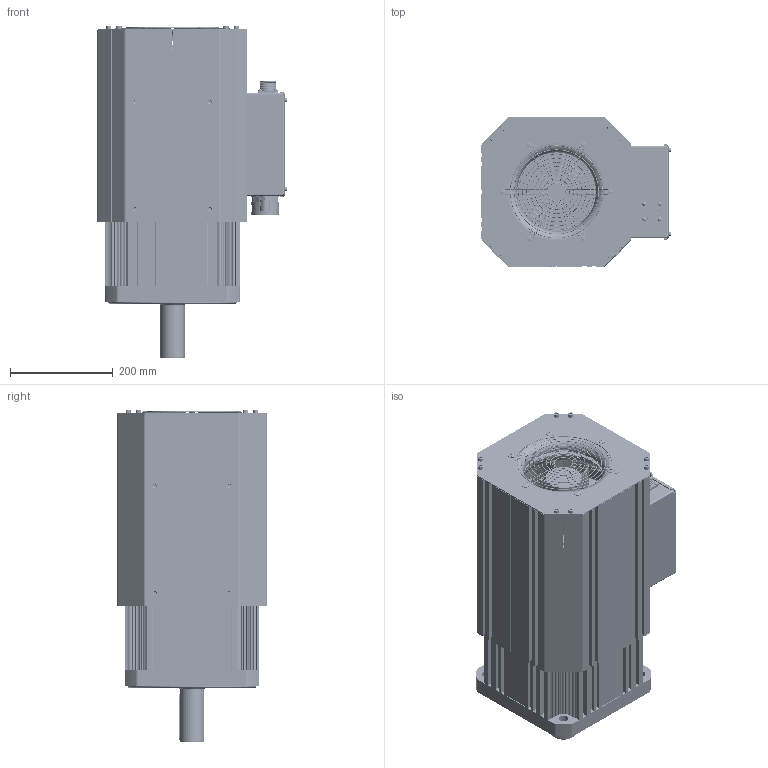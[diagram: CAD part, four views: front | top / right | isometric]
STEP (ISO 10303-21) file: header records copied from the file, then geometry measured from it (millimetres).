
FILE_DESCRIPTION((''),'2;1');
FILE_NAME('K187F18C25P_ASM','2019-12-11T',('Administrator'),(''),'PRO/ENGINEER BY PARAMETRIC TECHNOLOGY CORPORATION, 2010280','PRO/ENGINEER BY PARAMETRIC TECHNOLOGY CORPORATION, 2010280','');
FILE_SCHEMA(('CONFIG_CONTROL_DESIGN'));
Products named in the file (72): JK_K187_10200-99102; DZTX_K187_10000-07008; DZXB_K187_80100-08009; DZZZ_K187_80200-06007_ASM; ZZ_K187_12400-18019; PHH_250_20100-09010; ZZDP_38L_10100-01002; CG_37_250_00100-04005; CGKT_250_11800-01002; ZZDPZZ_250_ASM; JGH_250_12000-01002; ZC_Q_250_30400-02003; ZC_H_250_30400-00001; ZCZDQ_250_11200-01002; QDG_250_10600-02003; ZCYG_250_10900-01002; O_240_50000-04005; M8X45; ZZZJ_K187_80500-06007_ASM; M10X40; HDG_250_21200-01002; O_220_50000-05006; XB-2_J52XFW975J_40700-00001; XB-1_J52XFW975J_40700-00001; XBYB_J52_11700-00001; XBYM_J52_11000-00001; M4X10; M5X35; HGMB_250_21600-02003; CDLD_5X10; FJ_250_40000-01002; FJGDB_250_11400-02003; CTLD_4X8; FJZJ_250_80700-01002_ASM; FDB_L_K187_12900-76077; FDB_Y_K187_12900-76077; FDB_K187_12900-76077; FDB_0_K187_12900-76077; FDB_K187_12900-76077_ASM; M6X20_NO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
Assembly tree (181 placements, depth 4):
  K187F18C25P_ASM
    DZZZ_K187_80200-06007_ASM
      JK_K187_10200-99102
      DZTX_K187_10000-07008
      DZXB_K187_80100-08009
    ZZZJ_K187_80500-06007_ASM
      ZZ_K187_12400-18019
      PHH_250_20100-09010  x2
      ZZDPZZ_250_ASM  x5
        ZZDP_38L_10100-01002
        CG_37_250_00100-04005
        CGKT_250_11800-01002
      JGH_250_12000-01002  x4
      ZC_Q_250_30400-02003
      ZC_H_250_30400-00001
      ZCZDQ_250_11200-01002
      QDG_250_10600-02003
      ZCYG_250_10900-01002
      O_240_50000-04005
      M8X45  x4
    M10X40  x16
    HDG_250_21200-01002
    O_240_50000-04005
    O_220_50000-05006
    XB-2_J52XFW975J_40700-00001
    XB-1_J52XFW975J_40700-00001
    XBYB_J52_11700-00001  x2
    XBYM_J52_11000-00001
    M4X10  x10
    M5X35
    HGMB_250_21600-02003
    CDLD_5X10  x6
    FJZJ_250_80700-01002_ASM
      FJ_250_40000-01002
      FJGDB_250_11400-02003
      CTLD_4X8  x4
    FDB_K187_12900-76077_ASM
      FDB_L_K187_12900-76077
      FDB_Y_K187_12900-76077
      FDB_K187_12900-76077  x3
      FDB_0_K187_12900-76077  x3
    M6X20_NO  x16
    FJFHBZJ_250_80800-01002_ASM
      FJFHB_250_11100-01002
      DFQ_250_30700-00001
      FHW_250_30500-01002
      PDQ_4_KB  x6
      MD_4X12  x6
    M6X10  x8
    YXHQ_250_20300-01002
    O_40_50000-11012  x2
    JXHZJ_250_81100-01003_ASM
      JXHT_250_41000-10011
      XJD_250_50800-12013
      JXHG_250_41000-00001
      MFD_YD28-15P
      HKXZ_YD28-15P_40100-00001
      DR_40400-05006
      JXDZ_100A_40200-10011_ASM
        JXDZ-1_100A_40200-10011
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Bounding box: 368.74 x 292.24 x 647 mm (x, y, z)
Volume: 21353077.7 mm3; surface area: 6327155.3 mm2
Topology: 227 solids, 273 shells, 10462 faces, 27023 edges, 17324 vertices
Faces by surface type: plane 4977, cylinder 3661, torus 761, cone 468, sphere 352, bspline 243
Entity records: 207521 total; most frequent: CARTESIAN_POINT 46890, DIRECTION 34362, ORIENTED_EDGE 33040, EDGE_CURVE 16626, AXIS2_PLACEMENT_3D 12363, VERTEX_POINT 10897, VECTOR 9636, LINE 9636
